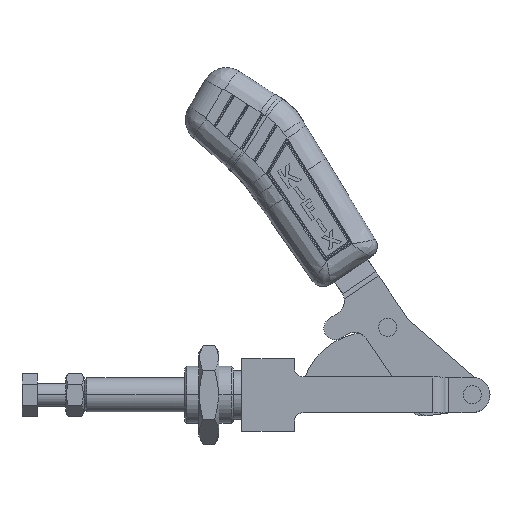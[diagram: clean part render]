
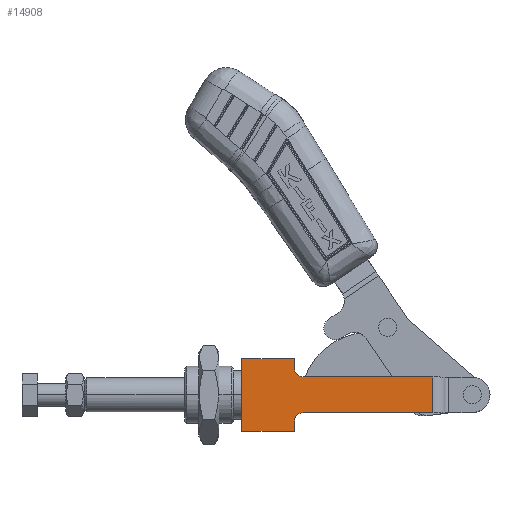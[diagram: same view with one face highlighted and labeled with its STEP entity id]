
A CAD part, top view. The second image highlights one B-rep face of the part: STEP entity #14908.
In plain terms, the highlighted planar face has unit normal (0, 0, 1).
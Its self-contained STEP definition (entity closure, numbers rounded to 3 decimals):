
#466 = CARTESIAN_POINT ( 'NONE',  ( 18.5, -12.7, 12.7 ) ) ;
#594 = DIRECTION ( 'NONE',  ( 0., -1., 0. ) ) ;
#1471 = LINE ( 'NONE', #11230, #6680 ) ;
#1487 = EDGE_CURVE ( 'NONE', #1727, #13814, #1471, .T. ) ;
#1657 = EDGE_CURVE ( 'NONE', #9054, #1727, #8560, .T. ) ;
#1727 = VERTEX_POINT ( 'NONE', #22582 ) ;
#2113 = EDGE_CURVE ( 'NONE', #3306, #18045, #12932, .T. ) ;
#2435 = DIRECTION ( 'NONE',  ( -1., 0., 0. ) ) ;
#2909 = CARTESIAN_POINT ( 'NONE',  ( 0., 12.7, 12.7 ) ) ;
#3306 = VERTEX_POINT ( 'NONE', #6776 ) ;
#3961 = VECTOR ( 'NONE', #9887, 1000. ) ;
#4079 = VECTOR ( 'NONE', #4988, 1000. ) ;
#4901 = CARTESIAN_POINT ( 'NONE',  ( 21.5, -6.25, 12.7 ) ) ;
#4988 = DIRECTION ( 'NONE',  ( -1., 0., 0. ) ) ;
#5325 = AXIS2_PLACEMENT_3D ( 'NONE', #19102, #8615, #20875 ) ;
#5377 = DIRECTION ( 'NONE',  ( 0., 0., 1. ) ) ;
#6680 = VECTOR ( 'NONE', #9454, 1000. ) ;
#6776 = CARTESIAN_POINT ( 'NONE',  ( 67.1, 6.25, 12.7 ) ) ;
#7282 = DIRECTION ( 'NONE',  ( 0., -1., 0. ) ) ;
#7397 = CARTESIAN_POINT ( 'NONE',  ( 18.5, 12.7, 12.7 ) ) ;
#7529 = AXIS2_PLACEMENT_3D ( 'NONE', #15829, #5377, #17599 ) ;
#7723 = CARTESIAN_POINT ( 'NONE',  ( 0., 12.7, 12.7 ) ) ;
#7748 = CARTESIAN_POINT ( 'NONE',  ( 21.5, 6.25, 12.7 ) ) ;
#7758 = VECTOR ( 'NONE', #11762, 1000. ) ;
#7943 = ORIENTED_EDGE ( 'NONE', *, *, #19478, .F. ) ;
#7945 = ORIENTED_EDGE ( 'NONE', *, *, #17233, .F. ) ;
#8485 = LINE ( 'NONE', #7397, #22452 ) ;
#8512 = CIRCLE ( 'NONE', #7529, 3. ) ;
#8560 = LINE ( 'NONE', #13316, #3961 ) ;
#8615 = DIRECTION ( 'NONE',  ( 0., 0., 1. ) ) ;
#8711 = EDGE_CURVE ( 'NONE', #18045, #13880, #22646, .T. ) ;
#9014 = LINE ( 'NONE', #21795, #21886 ) ;
#9049 = VERTEX_POINT ( 'NONE', #19874 ) ;
#9054 = VERTEX_POINT ( 'NONE', #7723 ) ;
#9371 = CARTESIAN_POINT ( 'NONE',  ( 0., 12.7, 12.7 ) ) ;
#9390 = VECTOR ( 'NONE', #18656, 1000. ) ;
#9454 = DIRECTION ( 'NONE',  ( 1., 0., 0. ) ) ;
#9887 = DIRECTION ( 'NONE',  ( 0., -1., 0. ) ) ;
#9919 = LINE ( 'NONE', #2909, #9390 ) ;
#10437 = LINE ( 'NONE', #15997, #14560 ) ;
#11057 = CARTESIAN_POINT ( 'NONE',  ( 18.5, 9.25, 12.7 ) ) ;
#11230 = CARTESIAN_POINT ( 'NONE',  ( 0., -12.7, 12.7 ) ) ;
#11599 = EDGE_CURVE ( 'NONE', #13880, #13587, #8512, .T. ) ;
#11762 = DIRECTION ( 'NONE',  ( 0., -1., 0. ) ) ;
#12865 = CIRCLE ( 'NONE', #5325, 3. ) ;
#12890 = DIRECTION ( 'NONE',  ( 0., 0., -1. ) ) ;
#12932 = LINE ( 'NONE', #22248, #7758 ) ;
#13054 = DIRECTION ( 'NONE',  ( 1., 0., 0. ) ) ;
#13316 = CARTESIAN_POINT ( 'NONE',  ( 0., 12.7, 12.7 ) ) ;
#13321 = ORIENTED_EDGE ( 'NONE', *, *, #11599, .F. ) ;
#13382 = CARTESIAN_POINT ( 'NONE',  ( 67.1, -6.25, 12.7 ) ) ;
#13587 = VERTEX_POINT ( 'NONE', #18812 ) ;
#13814 = VERTEX_POINT ( 'NONE', #466 ) ;
#13880 = VERTEX_POINT ( 'NONE', #16391 ) ;
#14357 = FACE_OUTER_BOUND ( 'NONE', #18432, .T. ) ;
#14560 = VECTOR ( 'NONE', #7282, 1000. ) ;
#14774 = ORIENTED_EDGE ( 'NONE', *, *, #15860, .F. ) ;
#14908 = ADVANCED_FACE ( 'NONE', ( #14357 ), #21626, .F. ) ;
#15829 = CARTESIAN_POINT ( 'NONE',  ( 21.5, -9.25, 12.7 ) ) ;
#15860 = EDGE_CURVE ( 'NONE', #9054, #9049, #9919, .T. ) ;
#15997 = CARTESIAN_POINT ( 'NONE',  ( 18.5, -12.7, 12.7 ) ) ;
#16391 = CARTESIAN_POINT ( 'NONE',  ( 21.5, -6.25, 12.7 ) ) ;
#17186 = ORIENTED_EDGE ( 'NONE', *, *, #1487, .T. ) ;
#17233 = EDGE_CURVE ( 'NONE', #13587, #13814, #10437, .T. ) ;
#17599 = DIRECTION ( 'NONE',  ( -1., 0., 0. ) ) ;
#18045 = VERTEX_POINT ( 'NONE', #13382 ) ;
#18432 = EDGE_LOOP ( 'NONE', ( #13321, #18833, #19925, #7943, #22175, #20744, #14774, #20491, #17186, #7945 ) ) ;
#18433 = VERTEX_POINT ( 'NONE', #7748 ) ;
#18656 = DIRECTION ( 'NONE',  ( 1., 0., 0. ) ) ;
#18759 = EDGE_CURVE ( 'NONE', #22513, #18433, #12865, .T. ) ;
#18812 = CARTESIAN_POINT ( 'NONE',  ( 18.5, -9.25, 12.7 ) ) ;
#18833 = ORIENTED_EDGE ( 'NONE', *, *, #8711, .F. ) ;
#19102 = CARTESIAN_POINT ( 'NONE',  ( 21.5, 9.25, 12.7 ) ) ;
#19247 = AXIS2_PLACEMENT_3D ( 'NONE', #9371, #12890, #2435 ) ;
#19478 = EDGE_CURVE ( 'NONE', #18433, #3306, #9014, .T. ) ;
#19874 = CARTESIAN_POINT ( 'NONE',  ( 18.5, 12.7, 12.7 ) ) ;
#19925 = ORIENTED_EDGE ( 'NONE', *, *, #2113, .F. ) ;
#19954 = EDGE_CURVE ( 'NONE', #9049, #22513, #8485, .T. ) ;
#20491 = ORIENTED_EDGE ( 'NONE', *, *, #1657, .T. ) ;
#20744 = ORIENTED_EDGE ( 'NONE', *, *, #19954, .F. ) ;
#20875 = DIRECTION ( 'NONE',  ( 1., 0., 0. ) ) ;
#21626 = PLANE ( 'NONE',  #19247 ) ;
#21795 = CARTESIAN_POINT ( 'NONE',  ( 21.5, 6.25, 12.7 ) ) ;
#21886 = VECTOR ( 'NONE', #13054, 1000. ) ;
#22175 = ORIENTED_EDGE ( 'NONE', *, *, #18759, .F. ) ;
#22248 = CARTESIAN_POINT ( 'NONE',  ( 67.1, 12.7, 12.7 ) ) ;
#22452 = VECTOR ( 'NONE', #594, 1000. ) ;
#22513 = VERTEX_POINT ( 'NONE', #11057 ) ;
#22582 = CARTESIAN_POINT ( 'NONE',  ( 0., -12.7, 12.7 ) ) ;
#22646 = LINE ( 'NONE', #4901, #4079 ) ;
